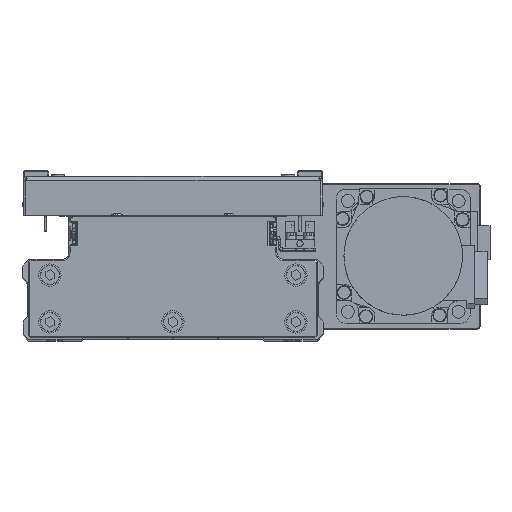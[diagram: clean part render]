
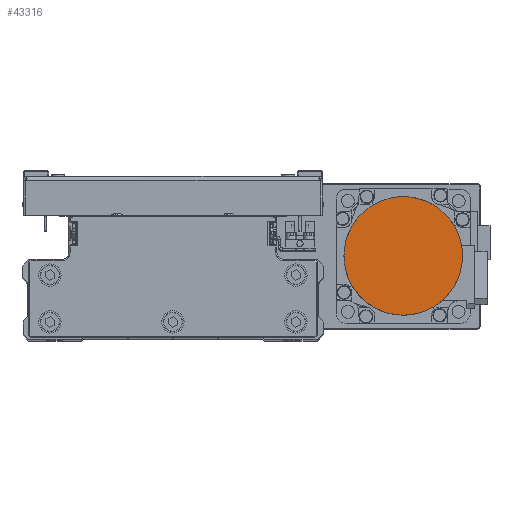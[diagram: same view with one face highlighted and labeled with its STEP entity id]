
A CAD part, top view. The second image highlights one B-rep face of the part: STEP entity #43316.
In plain terms, the highlighted planar face has unit normal (0, 0, 1) as drawn and (0, 0, -1) by its records, which use the part's own axes.
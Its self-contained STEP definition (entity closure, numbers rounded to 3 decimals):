
#106 = DIRECTION ( 'NONE',  ( 0., 0., 1. ) ) ;
#123 = CARTESIAN_POINT ( 'NONE',  ( -17.512, -19.965, -109.7 ) ) ;
#347 = CARTESIAN_POINT ( 'NONE',  ( 13.28, -22.998, -109.7 ) ) ;
#1513 = CARTESIAN_POINT ( 'NONE',  ( 17.512, 19.965, -109.7 ) ) ;
#1742 = CARTESIAN_POINT ( 'NONE',  ( -13.28, 22.998, -109.7 ) ) ;
#3406 = FACE_OUTER_BOUND ( 'NONE', #30804, .T. ) ;
#3427 = CARTESIAN_POINT ( 'NONE',  ( -22.998, -13.28, -109.7 ) ) ;
#3627 = CARTESIAN_POINT ( 'NONE',  ( 6.871, -25.652, -109.7 ) ) ;
#3848 = CARTESIAN_POINT ( 'NONE',  ( 26.5, -1.734, -109.7 ) ) ;
#4817 = CARTESIAN_POINT ( 'NONE',  ( 22.998, 13.28, -109.7 ) ) ;
#5021 = CARTESIAN_POINT ( 'NONE',  ( -6.871, 25.652, -109.7 ) ) ;
#5248 = CARTESIAN_POINT ( 'NONE',  ( -26.5, 1.734, -109.7 ) ) ;
#6726 = CARTESIAN_POINT ( 'NONE',  ( -25.652, -6.871, -109.7 ) ) ;
#6935 = CARTESIAN_POINT ( 'NONE',  ( -1.734, -26.5, -109.7 ) ) ;
#7139 = CARTESIAN_POINT ( 'NONE',  ( 25.147, -8.539, -109.7 ) ) ;
#8111 = CARTESIAN_POINT ( 'NONE',  ( 25.652, 6.871, -109.7 ) ) ;
#8323 = CARTESIAN_POINT ( 'NONE',  ( 1.734, 26.5, -109.7 ) ) ;
#8529 = CARTESIAN_POINT ( 'NONE',  ( -25.147, 8.539, -109.7 ) ) ;
#9179 = ORIENTED_EDGE ( 'NONE', *, *, #27119, .F. ) ;
#10008 = CARTESIAN_POINT ( 'NONE',  ( -26.5, 0., -109.7 ) ) ;
#10233 = CARTESIAN_POINT ( 'NONE',  ( -8.539, -25.147, -109.7 ) ) ;
#10438 = CARTESIAN_POINT ( 'NONE',  ( 21.07, -16.165, -109.7 ) ) ;
#11403 = CARTESIAN_POINT ( 'NONE',  ( 26.5, 0., -109.7 ) ) ;
#11623 = CARTESIAN_POINT ( 'NONE',  ( 8.539, 25.147, -109.7 ) ) ;
#11843 = CARTESIAN_POINT ( 'NONE',  ( -21.07, 16.165, -109.7 ) ) ;
#13502 = DIRECTION ( 'NONE',  ( 1., 0., 0. ) ) ;
#13523 = CARTESIAN_POINT ( 'NONE',  ( -16.165, -21.07, -109.7 ) ) ;
#13748 = CARTESIAN_POINT ( 'NONE',  ( 16.165, -21.07, -109.7 ) ) ;
#14904 = CARTESIAN_POINT ( 'NONE',  ( 16.165, 21.07, -109.7 ) ) ;
#15130 = CARTESIAN_POINT ( 'NONE',  ( -16.165, 21.07, -109.7 ) ) ;
#16814 = PLANE ( 'NONE',  #34548 ) ;
#16833 = CARTESIAN_POINT ( 'NONE',  ( -21.07, -16.165, -109.7 ) ) ;
#17045 = CARTESIAN_POINT ( 'NONE',  ( 8.539, -25.147, -109.7 ) ) ;
#17265 = CARTESIAN_POINT ( 'NONE',  ( 26.5, 0., -109.7 ) ) ;
#18226 = CARTESIAN_POINT ( 'NONE',  ( 21.07, 16.165, -109.7 ) ) ;
#18436 = CARTESIAN_POINT ( 'NONE',  ( -8.539, 25.147, -109.7 ) ) ;
#18663 = CARTESIAN_POINT ( 'NONE',  ( -26.5, 0., -109.7 ) ) ;
#19297 = CARTESIAN_POINT ( 'NONE',  ( -26.5, 0., -109.7 ) ) ;
#20139 = CARTESIAN_POINT ( 'NONE',  ( -25.147, -8.539, -109.7 ) ) ;
#20350 = CARTESIAN_POINT ( 'NONE',  ( 1.734, -26.5, -109.7 ) ) ;
#20567 = CARTESIAN_POINT ( 'NONE',  ( 25.652, -6.871, -109.7 ) ) ;
#20743 = B_SPLINE_CURVE_WITH_KNOTS ( 'NONE', 3,
 ( #11403, #24832, #38184, #8111, #21535, #34896, #4817, #18226, #31601, #1513, #14904, #28315, #41685, #11623, #25050, #38402, #8323, #21741, #35101, #5021, #18436, #31823, #1742, #15130, #28537, #41908, #11843, #25257, #38606, #8529, #21955, #35321, #5248, #18663 ),
 .UNSPECIFIED., .F., .F.,
 ( 4, 2, 2, 2, 2, 2, 2, 2, 2, 2, 2, 2, 2, 2, 2, 2, 4 ),
 ( 0., 0.062, 0.125, 0.187, 0.25, 0.312, 0.375, 0.437, 0.5, 0.562, 0.625, 0.687, 0.75, 0.813, 0.875, 0.938, 1. ),
 .UNSPECIFIED. ) ;
#21296 = B_SPLINE_CURVE_WITH_KNOTS ( 'NONE', 3,
 ( #10008, #23428, #36792, #6726, #20139, #33507, #3427, #16833, #30207, #123, #13523, #26928, #40301, #10233, #23643, #37005, #6935, #20350, #33709, #3627, #17045, #30425, #347, #13748, #27148, #40518, #10438, #23856, #37212, #7139, #20567, #33932, #3848, #17265 ),
 .UNSPECIFIED., .F., .F.,
 ( 4, 2, 2, 2, 2, 2, 2, 2, 2, 2, 2, 2, 2, 2, 2, 2, 4 ),
 ( 0., 0.063, 0.125, 0.188, 0.25, 0.312, 0.375, 0.437, 0.5, 0.562, 0.625, 0.687, 0.75, 0.813, 0.875, 0.938, 1. ),
 .UNSPECIFIED. ) ;
#21535 = CARTESIAN_POINT ( 'NONE',  ( 25.147, 8.539, -109.7 ) ) ;
#21741 = CARTESIAN_POINT ( 'NONE',  ( -1.734, 26.5, -109.7 ) ) ;
#21955 = CARTESIAN_POINT ( 'NONE',  ( -25.652, 6.871, -109.7 ) ) ;
#22163 = VERTEX_POINT ( 'NONE', #31941 ) ;
#23181 = ORIENTED_EDGE ( 'NONE', *, *, #34338, .F. ) ;
#23428 = CARTESIAN_POINT ( 'NONE',  ( -26.5, -1.734, -109.7 ) ) ;
#23643 = CARTESIAN_POINT ( 'NONE',  ( -6.871, -25.652, -109.7 ) ) ;
#23856 = CARTESIAN_POINT ( 'NONE',  ( 22.998, -13.28, -109.7 ) ) ;
#24832 = CARTESIAN_POINT ( 'NONE',  ( 26.5, 1.734, -109.7 ) ) ;
#25050 = CARTESIAN_POINT ( 'NONE',  ( 6.871, 25.652, -109.7 ) ) ;
#25257 = CARTESIAN_POINT ( 'NONE',  ( -22.998, 13.28, -109.7 ) ) ;
#26928 = CARTESIAN_POINT ( 'NONE',  ( -13.28, -22.998, -109.7 ) ) ;
#27119 = EDGE_CURVE ( 'NONE', #22163, #32445, #20743, .T. ) ;
#27148 = CARTESIAN_POINT ( 'NONE',  ( 17.512, -19.965, -109.7 ) ) ;
#28315 = CARTESIAN_POINT ( 'NONE',  ( 13.28, 22.998, -109.7 ) ) ;
#28537 = CARTESIAN_POINT ( 'NONE',  ( -17.512, 19.965, -109.7 ) ) ;
#30191 = CARTESIAN_POINT ( 'NONE',  ( 0., 0., -109.7 ) ) ;
#30207 = CARTESIAN_POINT ( 'NONE',  ( -19.965, -17.512, -109.7 ) ) ;
#30425 = CARTESIAN_POINT ( 'NONE',  ( 11.744, -23.819, -109.7 ) ) ;
#30804 = EDGE_LOOP ( 'NONE', ( #9179, #23181 ) ) ;
#31601 = CARTESIAN_POINT ( 'NONE',  ( 19.965, 17.512, -109.7 ) ) ;
#31823 = CARTESIAN_POINT ( 'NONE',  ( -11.744, 23.819, -109.7 ) ) ;
#31941 = CARTESIAN_POINT ( 'NONE',  ( 26.5, 0., -109.7 ) ) ;
#32445 = VERTEX_POINT ( 'NONE', #19297 ) ;
#33507 = CARTESIAN_POINT ( 'NONE',  ( -23.819, -11.744, -109.7 ) ) ;
#33709 = CARTESIAN_POINT ( 'NONE',  ( 3.469, -26.329, -109.7 ) ) ;
#33932 = CARTESIAN_POINT ( 'NONE',  ( 26.329, -3.469, -109.7 ) ) ;
#34338 = EDGE_CURVE ( 'NONE', #32445, #22163, #21296, .T. ) ;
#34548 = AXIS2_PLACEMENT_3D ( 'NONE', #30191, #106, #13502 ) ;
#34896 = CARTESIAN_POINT ( 'NONE',  ( 23.819, 11.744, -109.7 ) ) ;
#35101 = CARTESIAN_POINT ( 'NONE',  ( -3.469, 26.329, -109.7 ) ) ;
#35321 = CARTESIAN_POINT ( 'NONE',  ( -26.329, 3.469, -109.7 ) ) ;
#36792 = CARTESIAN_POINT ( 'NONE',  ( -26.329, -3.469, -109.7 ) ) ;
#37005 = CARTESIAN_POINT ( 'NONE',  ( -3.469, -26.329, -109.7 ) ) ;
#37212 = CARTESIAN_POINT ( 'NONE',  ( 23.819, -11.744, -109.7 ) ) ;
#38184 = CARTESIAN_POINT ( 'NONE',  ( 26.329, 3.469, -109.7 ) ) ;
#38402 = CARTESIAN_POINT ( 'NONE',  ( 3.469, 26.329, -109.7 ) ) ;
#38606 = CARTESIAN_POINT ( 'NONE',  ( -23.819, 11.744, -109.7 ) ) ;
#40301 = CARTESIAN_POINT ( 'NONE',  ( -11.744, -23.819, -109.7 ) ) ;
#40518 = CARTESIAN_POINT ( 'NONE',  ( 19.965, -17.512, -109.7 ) ) ;
#41685 = CARTESIAN_POINT ( 'NONE',  ( 11.744, 23.819, -109.7 ) ) ;
#41908 = CARTESIAN_POINT ( 'NONE',  ( -19.965, 17.512, -109.7 ) ) ;
#43316 = ADVANCED_FACE ( 'NONE', ( #3406 ), #16814, .F. ) ;
